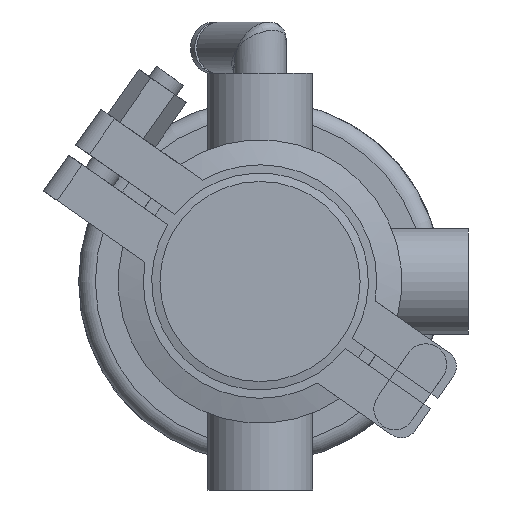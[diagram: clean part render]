
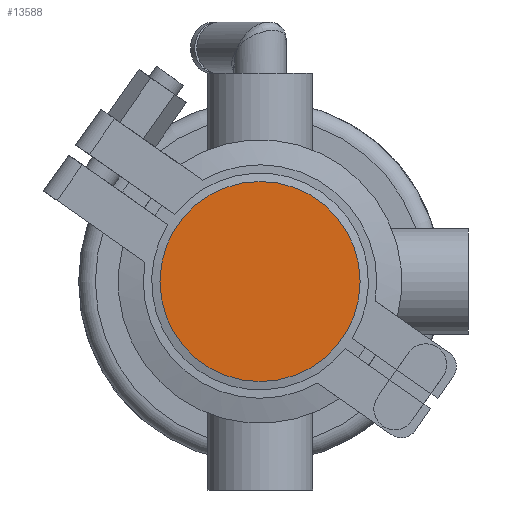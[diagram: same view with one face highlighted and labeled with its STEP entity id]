
A CAD part, front view. The second image highlights one B-rep face of the part: STEP entity #13588.
In plain terms, the highlighted planar face has unit normal (0, -1, 0).
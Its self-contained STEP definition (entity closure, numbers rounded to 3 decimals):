
#534 = ORIENTED_EDGE ( 'NONE', *, *, #16092, .F. ) ;
#2640 = AXIS2_PLACEMENT_3D ( 'NONE', #7809, #6232, #11284 ) ;
#4410 = DIRECTION ( 'NONE',  ( 0., 0., -1. ) ) ;
#5965 = DIRECTION ( 'NONE',  ( 0., -1., 0. ) ) ;
#6232 = DIRECTION ( 'NONE',  ( 0., 1., 0. ) ) ;
#7809 = CARTESIAN_POINT ( 'NONE',  ( 0., 0., 0. ) ) ;
#8210 = CARTESIAN_POINT ( 'NONE',  ( -24., 0., 0. ) ) ;
#11284 = DIRECTION ( 'NONE',  ( 0., 0., 1. ) ) ;
#11293 = FACE_OUTER_BOUND ( 'NONE', #15596, .T. ) ;
#13552 = VERTEX_POINT ( 'NONE', #19861 ) ;
#13588 = ADVANCED_FACE ( 'NONE', ( #11293 ), #19161, .T. ) ;
#15596 = EDGE_LOOP ( 'NONE', ( #534 ) ) ;
#16092 = EDGE_CURVE ( 'NONE', #13552, #13552, #19865, .T. ) ;
#18889 = AXIS2_PLACEMENT_3D ( 'NONE', #8210, #5965, #4410 ) ;
#19161 = PLANE ( 'NONE',  #18889 ) ;
#19861 = CARTESIAN_POINT ( 'NONE',  ( 0., 0., 24. ) ) ;
#19865 = CIRCLE ( 'NONE', #2640, 24. ) ;
